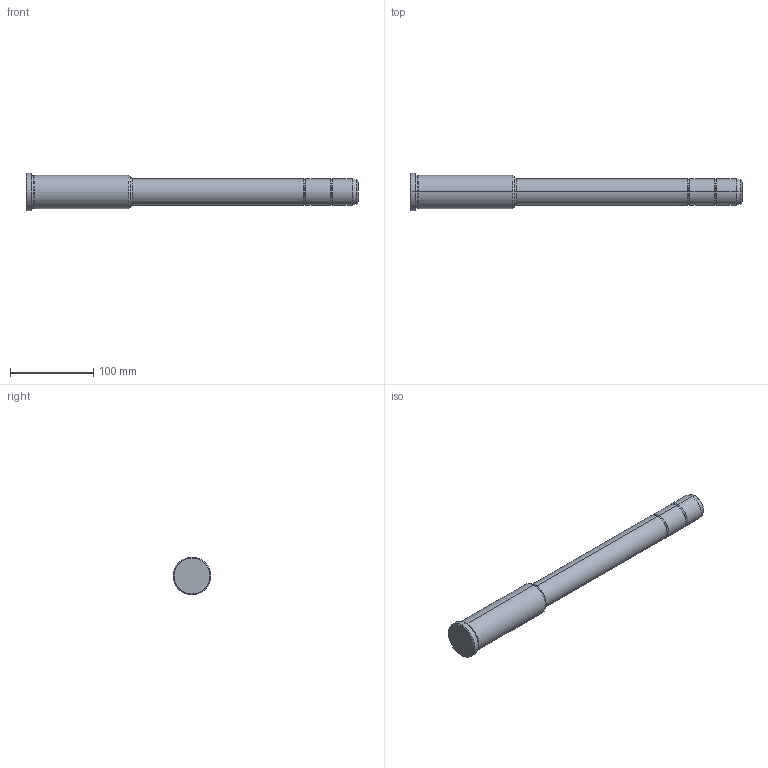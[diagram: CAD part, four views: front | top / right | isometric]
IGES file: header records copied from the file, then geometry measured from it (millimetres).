
Start section: START RECORD GO HERE.
Global section: file name: 351-32X126X400.igs; native system: DASSAULT SYSTEMES CATIA V5 R20 - www.3ds.com; preprocessor: CATIA Version 5 Release 20 ; author: Utente; organization: NB04-ASUS; date: 20210915.142205; units: millimetre
Bounding box: 400 x 45 x 45 mm (x, y, z)
Surface area: 46240.6 mm2 (no closed solid volume)
Topology: 0 solids, 0 shells, 36 faces, 204 edges, 204 vertices
Faces by surface type: revolution 32, plane 4
